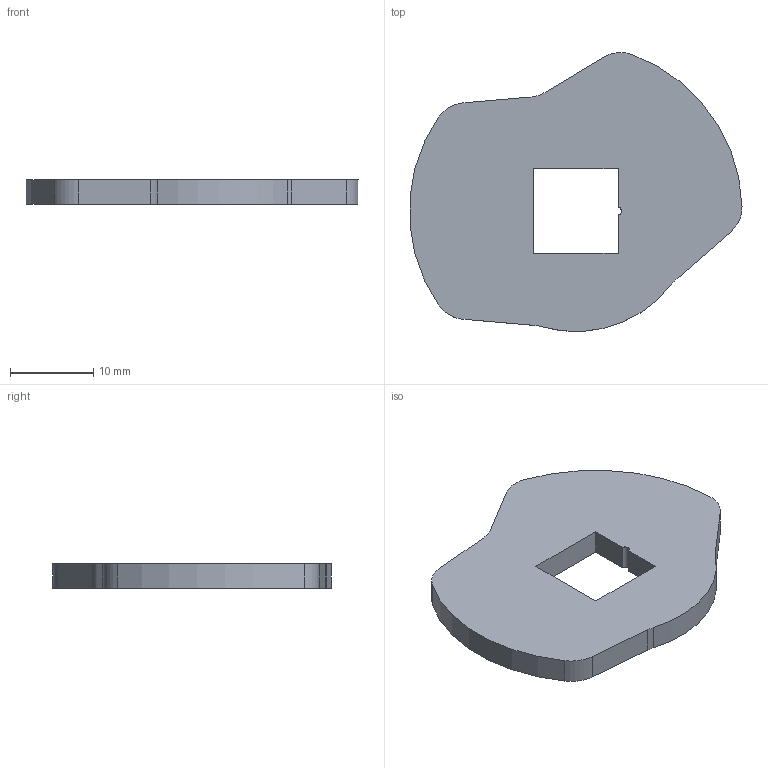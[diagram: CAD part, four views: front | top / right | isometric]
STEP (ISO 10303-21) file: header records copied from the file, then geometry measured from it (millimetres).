
FILE_DESCRIPTION(/* description */ ('STEP AP242','CAx-IF Rec.Pracs.---Representation and Presentation of Product Manufacturing Information (PMI)---4.0---2014-10-13','CAx-IF Rec.Pracs.---3D Tessellated Geometry---0.4---2014-09-14','2;1'),/* implementation_level */ '2;1');
FILE_NAME(/* name */ 'Part Studio 1 - Segment B Cam',/* time_stamp */ '2025-09-04T05:47:28Z',/* author */ (''),/* organization */ (''),/* preprocessor_version */ 'ST-DEVELOPER v20',/* originating_system */ 'ONSHAPE BY PTC INC, 1.203',/* authorisation */ ' ');
FILE_SCHEMA (('AP242_MANAGED_MODEL_BASED_3D_ENGINEERING_MIM_LF { 1 0 10303 442 1 1 4 }'));
Length unit declared in the file: metre
Products named in the file (1): Segment B Cam
Bounding box: 39.92 x 33.54 x 3 mm (x, y, z)
Volume: 2675.8 mm3; surface area: 2257.6 mm2
Topology: 1 solids, 1 shells, 22 faces, 60 edges, 40 vertices
Faces by surface type: plane 11, cylinder 11
Entity records: 732 total; most frequent: DIRECTION 128, CARTESIAN_POINT 123, ORIENTED_EDGE 120, EDGE_CURVE 60, AXIS2_PLACEMENT_3D 45, VERTEX_POINT 40, LINE 38, VECTOR 38
